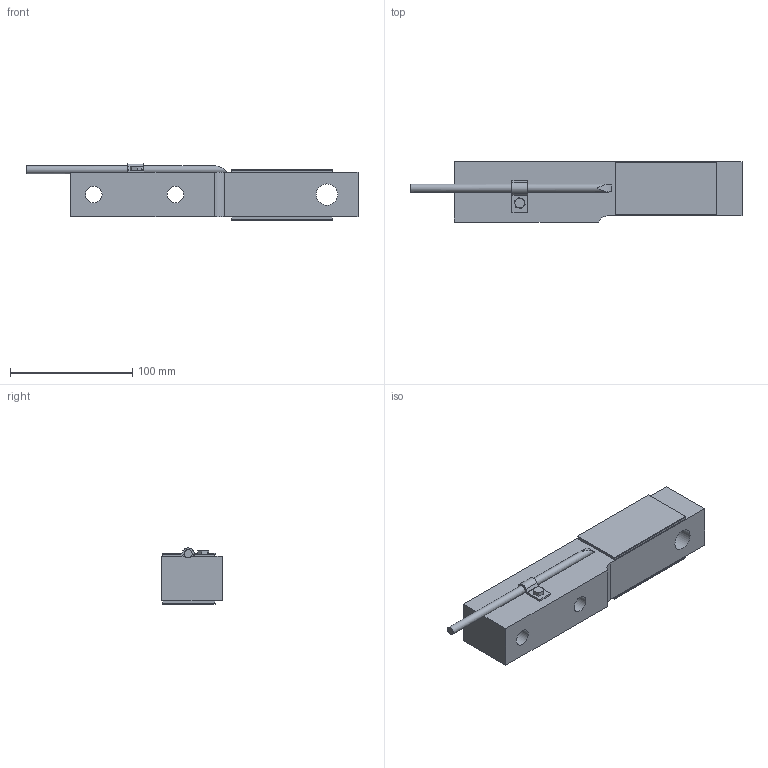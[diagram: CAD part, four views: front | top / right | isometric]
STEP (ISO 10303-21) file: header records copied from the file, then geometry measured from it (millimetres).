
FILE_DESCRIPTION (( 'STEP AP203' ), '1' );
FILE_NAME ('80027.STEP', '2017-06-06T18:27:48', ( '' ), ( '' ), 'SwSTEP 2.0', 'SolidWorks 2016', '' );
FILE_SCHEMA (( 'CONFIG_CONTROL_DESIGN' ));
Length unit declared in the file: inch
Products named in the file (1): 80027
Bounding box: 271.27 x 49.28 x 45.91 mm (x, y, z)
Volume: 393321.1 mm3; surface area: 52897.1 mm2
Topology: 1 solids, 3 shells, 71 faces, 174 edges, 115 vertices
Faces by surface type: plane 49, cylinder 12, cone 6, bspline 4
Full cylindrical faces by diameter (mm): 1.981 x1, 5.556 x1, 6.502 x1, 13.564 x2, 17.475 x1, 30.353 x1
Entity records: 5257 total; most frequent: CARTESIAN_POINT 3568, ORIENTED_EDGE 326, DIRECTION 308, EDGE_CURVE 163, VERTEX_POINT 111, VECTOR 108, LINE 108, AXIS2_PLACEMENT_3D 100
